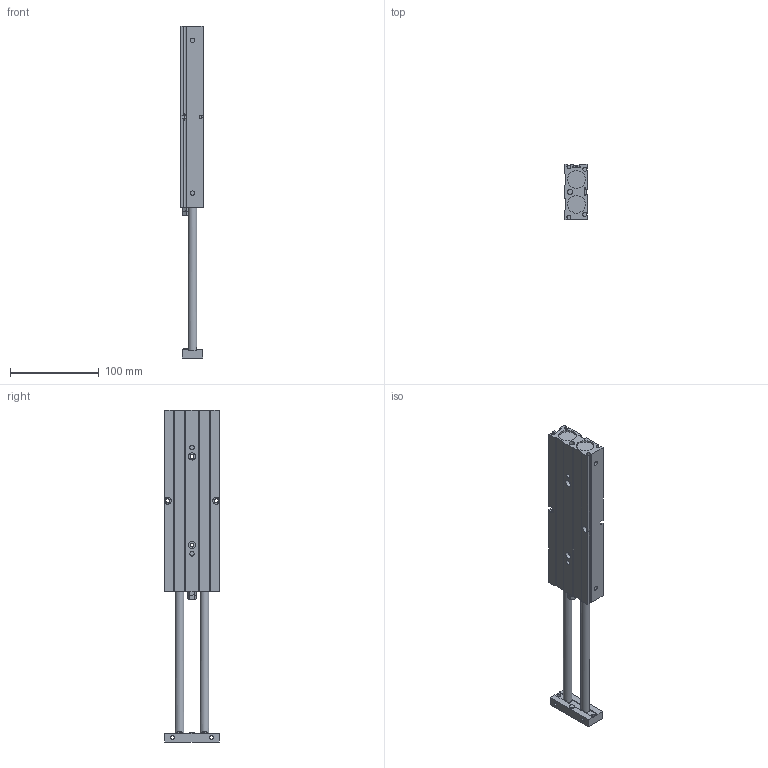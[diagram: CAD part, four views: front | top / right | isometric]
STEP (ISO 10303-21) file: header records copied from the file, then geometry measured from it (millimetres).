
FILE_DESCRIPTION((''),'2;1');
FILE_NAME('I:\3D電子目錄\氣缸\TD\TD20\TD20\TD20x150.stp','2007-08-06T09:47:47',('Administrator'),(''),'Autodesk Inventor 2008','Autodesk Inventor 2008','');
FILE_SCHEMA(('AUTOMOTIVE_DESIGN { 1 0 10303 214 1 1 1 1 }'));
Length unit declared in the file: millimetre
Products named in the file (1): TD20X150
Bounding box: 25 x 62 x 375 mm (x, y, z)
Volume: 320894.5 mm3; surface area: 69035.5 mm2
Topology: 1 solids, 3 shells, 197 faces, 503 edges, 329 vertices
Faces by surface type: plane 136, cylinder 48, cone 7, bspline 4, torus 2
Full cylindrical faces by diameter (mm): 4 x4, 4.5 x4, 5 x4, 6 x2, 7 x2, 8 x6, 9 x2, 10 x2, 20 x4
Entity records: 6108 total; most frequent: CARTESIAN_POINT 1453, DIRECTION 927, ORIENTED_EDGE 916, EDGE_CURVE 458, VERTEX_POINT 323, AXIS2_PLACEMENT_3D 310, VECTOR 307, LINE 307
